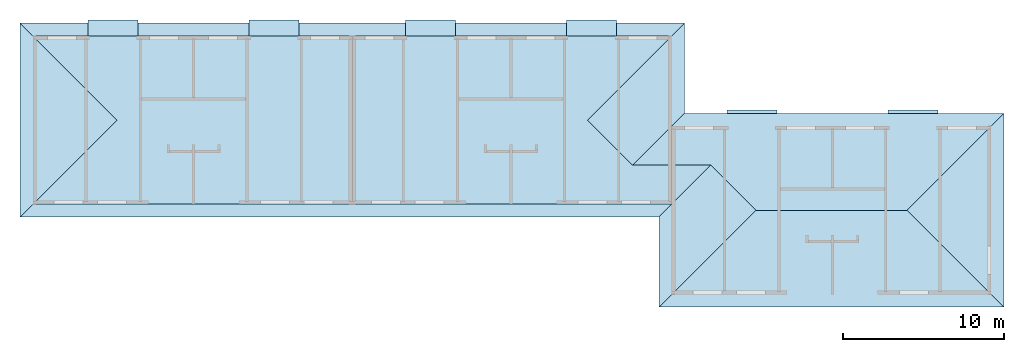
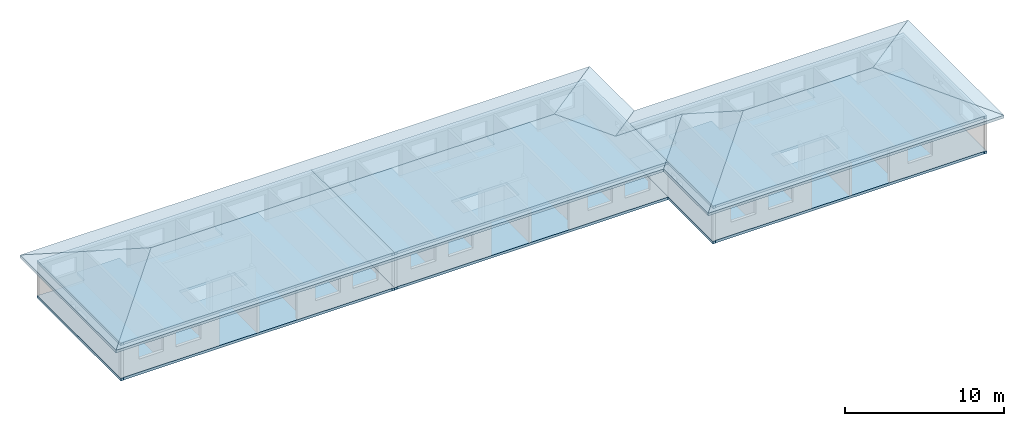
# One storey, part 1 of 9: 14 slabs, 3 openings, 1 element without a shape of its own.
"""IFC2X3 building model written with IfcOpenShell, lengths in millimetres."""

from ifc_helpers import new_model, entity, si_unit, converted_unit, frame, frame_2d, origin, origin_with_axes, place, context, subcontext, project, spatial, polyline, rectangle, outline, extrude, faceted_brep, material, layer, layer_set, layer_usage, element, aggregate, save


model = new_model("IFC2X3")

# Units and contexts
model_context = context("Model", 3, precision=1e-05, world=origin())
plan_context = context("Plan", 3, precision=1e-05, world=origin())
body_context = subcontext(model_context, "Body", "Model", "MODEL_VIEW")
ifc_project = project(units=[si_unit("LENGTHUNIT", "METRE", prefix="MILLI"), converted_unit("PLANEANGLEUNIT", "DEGREE", entity("IfcPlaneAngleMeasure", 0.0174532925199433), si_unit("PLANEANGLEUNIT", "RADIAN"), dimensions=[0, 0, 0, 0, 0, 0, 0]), si_unit("AREAUNIT", "SQUARE_METRE"), si_unit("VOLUMEUNIT", "CUBIC_METRE")], contexts=[model_context, plan_context])

# Building, storey
building_placement = place(None, origin())
building = spatial("IfcBuilding", under=ifc_project, at=building_placement, Name="Bâtiment", CompositionType="ELEMENT")
storey_placement = place(building_placement, frame((0.0, 0.0, 8100.0), z_axis=(0.0, 0.0, 1.0), x_axis=(1.0, 0.0, 0.0)))
storey = spatial("IfcBuildingStorey", under=building, at=storey_placement, Name="r+3", CompositionType="ELEMENT", Elevation=8100.0)

# Slab, opening
ifc_material_1 = material()
ifc_layer_1 = layer(ifc_material_1, 200.0)
ifc_layer_set_1 = layer_set([ifc_layer_1])
ifc_layer_usage_1 = layer_usage(ifc_layer_set_1, "AXIS3", "POSITIVE", 0.0)
slab_1_placement = place(storey_placement, frame((39699.99999999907, -5599.999999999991, -200.0), z_axis=(0.0, 0.0, 1.0), x_axis=(1.0, 0.0, 0.0)))
slab_1 = element("IfcSlab", 1, at=slab_1_placement, inside=storey, material=ifc_layer_usage_1, PredefinedType="FLOOR", context=body_context, shape_type="SweptSolid", body=[
    extrude(outline(polyline([(0.0, 0.0), (180.0, 0.0), (180.0, 20.0775509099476), (6925.000003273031, 20.0775509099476), (13045.00000000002, 20.1627935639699), (19669.99999999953, 20.1627935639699), (19669.99999999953, 1.818989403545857e-12), (19849.99999999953, 1.818989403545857e-12), (19849.99999999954, 10490.07776548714), (19669.99999999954, 10490.07776548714), (19669.99999999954, 10470.07776548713), (16539.99999105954, 10470.07768919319), (16539.59862885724, 11470.07760604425), (13439.59868548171, 11470.07760604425), (13440.00000000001, 10470.07775475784), (6530.000000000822, 10470.07768919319), (6530.000094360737, 11470.07760604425), (3430.000000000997, 11470.07775475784), (3430.000000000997, 10470.07776548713), (180.0, 10470.07776548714), (7.275957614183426e-12, 10470.07776548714), (0.0, 0.0)])), origin_with_axes(), (0.0, 0.0, 1.0), 200.0),
])
opening_1_placement = place(slab_1_placement, frame((7959.999453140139, 4920.077765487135, 0.0), z_axis=(0.0, 0.0, 1.0), x_axis=(1.0, 0.0, 0.0)))
element("IfcOpeningElement", 2, at=opening_1_placement, cuts=slab_1, Name="Trémie dans dalle", ObjectType="Opening", context=body_context, shape_type="SweptSolid", body=[
    extrude(rectangle(XDim=4050.0, YDim=1550.0, at=frame_2d((2025.0, 775.0), x_axis=(1.0, 0.0))), origin_with_axes(), (0.0, 0.0, 1.0), 200.0),
])

ifc_material_2 = material()
ifc_layer_2 = layer(ifc_material_2, 200.0)
ifc_layer_set_2 = layer_set([ifc_layer_2])
ifc_layer_usage_2 = layer_usage(ifc_layer_set_2, "AXIS3", "POSITIVE", 0.0)
slab_2_placement = place(storey_placement, frame((19849.99999999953, 1.818989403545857e-12, -200.0), z_axis=(0.0, 0.0, 1.0), x_axis=(1.0, 0.0, 0.0)))
slab_2 = element("IfcSlab", 3, at=slab_2_placement, inside=storey, material=ifc_layer_usage_2, PredefinedType="FLOOR", context=body_context, shape_type="SweptSolid", body=[
    extrude(outline(polyline([(0.0, 0.0), (180.0, 0.0), (180.0, 20.16279356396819), (6805.000546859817, 20.16279356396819), (6805.000546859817, 20.0775509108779), (12924.99999999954, 20.07755090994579), (19849.99999999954, 20.07755090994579), (19849.99999999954, 10490.07776548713), (19669.99999999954, 10490.07776548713), (19669.99999999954, 10470.07776548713), (16419.99999999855, 10470.07776548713), (16419.99999999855, 11470.07775475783), (13319.99990563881, 11470.07760604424), (13319.99999999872, 10470.07768919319), (6409.999999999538, 10470.07775475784), (6410.401314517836, 11470.07760604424), (3310.401371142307, 11470.07760604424), (3310.000008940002, 10470.07768919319), (180.0000000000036, 10470.07776548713), (180.0000000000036, 10490.07776548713), (3.637978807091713e-12, 10490.07776548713), (0.0, 0.0)])), origin_with_axes(), (0.0, 0.0, 1.0), 200.0),
])
opening_2_placement = place(slab_2_placement, frame((7840.000546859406, 4920.077765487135, 0.0), z_axis=(0.0, 0.0, 1.0), x_axis=(1.0, 0.0, 0.0)))
element("IfcOpeningElement", 4, at=opening_2_placement, cuts=slab_2, Name="Trémie dans dalle", ObjectType="Opening", context=body_context, shape_type="SweptSolid", body=[
    extrude(rectangle(XDim=4050.0, YDim=1550.0, at=frame_2d((2025.0, 775.0), x_axis=(1.0, 0.0))), origin_with_axes(), (0.0, 0.0, 1.0), 200.0),
])

ifc_material_3 = material()
ifc_layer_3 = layer(ifc_material_3, 200.0)
ifc_layer_set_3 = layer_set([ifc_layer_3])
ifc_layer_usage_3 = layer_usage(ifc_layer_set_3, "AXIS3", "POSITIVE", 0.0)
slab_3_placement = place(storey_placement, frame((-5.561300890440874e-12, -3.306546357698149e-14, -200.0), z_axis=(0.0, 0.0, 1.0), x_axis=(1.0, 0.0, 0.0)))
slab_3 = element("IfcSlab", 5, at=slab_3_placement, inside=storey, material=ifc_layer_usage_3, PredefinedType="FLOOR", context=body_context, shape_type="SweptSolid", body=[
    extrude(outline(polyline([(0.0, 3.306546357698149e-14), (180.0, 0.0), (180.0, 20.0775509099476), (6925.000003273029, 20.07755090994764), (13045.00000000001, 20.16279356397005), (19669.99999999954, 20.16279356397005), (19669.99999999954, 1.852054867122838e-12), (19849.99999999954, 1.852054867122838e-12), (19849.99999999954, 10490.07776548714), (19669.99999999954, 10490.07776548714), (19669.99999999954, 10470.07776548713), (16539.99999105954, 10470.07768919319), (16539.59862885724, 11470.07760604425), (13439.59868548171, 11470.07760604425), (13440.0, 10470.07775475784), (6530.00000000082, 10470.07768919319), (6530.000094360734, 11470.07760604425), (3430.000000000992, 11470.07775475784), (3430.000000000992, 10470.07776548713), (180.0000000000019, 10470.07776548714), (180.0000000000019, 10490.07776548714), (1.924546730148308e-12, 10490.07776548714), (0.0, 3.306546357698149e-14)])), origin_with_axes(), (0.0, 0.0, 1.0), 200.0),
])
opening_3_placement = place(slab_3_placement, frame((7959.999453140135, 4920.077765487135, 0.0), z_axis=(0.0, 0.0, 1.0), x_axis=(1.0, 0.0, 0.0)))
element("IfcOpeningElement", 6, at=opening_3_placement, cuts=slab_3, Name="Trémie dans dalle", ObjectType="Opening", context=body_context, shape_type="SweptSolid", body=[
    extrude(rectangle(XDim=4050.0, YDim=1550.0, at=frame_2d((2025.0, 775.0), x_axis=(1.0, 0.0))), origin_with_axes(), (0.0, 0.0, 1.0), 200.0),
])

# Roof, slabs
roof_placement = place(storey_placement, frame((0.0, 0.0, -8100.0), z_axis=(0.0, 0.0, 1.0), x_axis=(1.0, 0.0, 0.0)))
roof = element("IfcRoof", 7, at=roof_placement, inside=storey, ShapeType="NOTDEFINED")
ifc_material_4 = material()
slab_4_placement = place(roof_placement, origin_with_axes())
slab_4 = element("IfcSlab", 8, at=slab_4_placement, material=ifc_material_4, PredefinedType="ROOF", context=body_context, shape_type="Brep", body=[
    faceted_brep([(38899.99999999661, -779.9224490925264, 10799.99999999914), (42125.00010728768, 2445.077658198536, 11928.75003755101), (37274.99989271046, 2445.077658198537, 11928.75003755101), (34474.99989271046, 5245.077658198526, 12908.75003755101), (5225.000107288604, 5245.077658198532, 12908.750037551), (-799.9999999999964, -779.9224490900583, 10800.0), (38900.00000000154, -779.9224490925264, 11011.89620100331), (-799.9999999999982, -779.9224490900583, 11011.89620100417), (5225.000107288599, 5245.077658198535, 13120.64623855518), (34474.99989271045, 5245.077658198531, 13120.64623855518), (37274.99989271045, 2445.077658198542, 12140.64623855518), (42125.00010728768, 2445.07765819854, 12140.64623855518), (42125.00010728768, 2445.07765819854, 12140.64623855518), (37274.99989271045, 2445.077658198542, 12140.64623855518), (37274.99989271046, 2445.077658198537, 11928.75003755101), (42125.00010728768, 2445.077658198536, 11928.75003755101), (37274.99989271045, 2445.077658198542, 12140.64623855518), (34474.99989271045, 5245.077658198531, 13120.64623855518), (34474.99989271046, 5245.077658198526, 12908.75003755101), (37274.99989271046, 2445.077658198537, 11928.75003755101), (34474.99989271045, 5245.077658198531, 13120.64623855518), (5225.000107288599, 5245.077658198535, 13120.64623855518), (5225.000107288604, 5245.077658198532, 12908.750037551), (34474.99989271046, 5245.077658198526, 12908.75003755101), (5225.000107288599, 5245.077658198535, 13120.64623855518), (-799.9999999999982, -779.9224490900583, 11011.89620100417), (-799.9999999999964, -779.9224490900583, 10800.0), (5225.000107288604, 5245.077658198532, 12908.750037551), (-799.9999999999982, -779.9224490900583, 11011.89620100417), (38900.00000000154, -779.9224490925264, 11011.89620100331), (38899.99999999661, -779.9224490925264, 10799.99999999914), (-799.9999999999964, -779.9224490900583, 10800.0), (38900.00000000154, -779.9224490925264, 11011.89620100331), (42125.00010728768, 2445.07765819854, 12140.64623855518), (42125.00010728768, 2445.077658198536, 11928.75003755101), (38899.99999999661, -779.9224490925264, 10799.99999999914)], [[[0, 1, 2, 3, 4, 5]], [[6, 7, 8, 9, 10, 11]], [[12, 13, 14, 15]], [[16, 17, 18, 19]], [[20, 21, 22, 23]], [[24, 25, 26, 27]], [[28, 29, 30, 31]], [[32, 33, 34, 35]]], orient=[[False], [False], [False], [False], [False], [False], [False], [False]]),
])
ifc_material_5 = material()
slab_5_placement = place(roof_placement, origin_with_axes())
slab_5 = element("IfcSlab", 9, at=slab_5_placement, material=ifc_material_5, PredefinedType="ROOF", context=body_context, shape_type="Brep", body=[
    faceted_brep([(38899.998282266, -6379.92416682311, 10799.99939879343), (44925.00010728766, -354.9223418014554, 12908.750037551), (42125.00010728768, 2445.077658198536, 11928.75003755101), (38900.00000000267, -779.9224490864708, 10800.00000000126), (38899.998282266, -6379.924166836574, 11011.8955997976), (38900.00000000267, -779.9224490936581, 11011.89620100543), (42125.00010728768, 2445.07765819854, 12140.64623855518), (44925.00010728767, -354.9223418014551, 13120.64623855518), (44925.00010728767, -354.9223418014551, 13120.64623855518), (42125.00010728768, 2445.07765819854, 12140.64623855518), (42125.00010728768, 2445.077658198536, 11928.75003755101), (44925.00010728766, -354.9223418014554, 12908.750037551), (42125.00010728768, 2445.07765819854, 12140.64623855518), (38900.00000000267, -779.9224490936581, 11011.89620100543), (38900.00000000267, -779.9224490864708, 10800.00000000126), (42125.00010728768, 2445.077658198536, 11928.75003755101), (38900.00000000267, -779.9224490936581, 11011.89620100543), (38899.998282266, -6379.924166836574, 11011.8955997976), (38899.998282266, -6379.92416682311, 10799.99939879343), (38900.00000000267, -779.9224490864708, 10800.00000000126), (38899.998282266, -6379.924166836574, 11011.8955997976), (44925.00010728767, -354.9223418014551, 13120.64623855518), (44925.00010728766, -354.9223418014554, 12908.750037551), (38899.998282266, -6379.92416682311, 10799.99939879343)], [[[0, 1, 2, 3]], [[4, 5, 6, 7]], [[8, 9, 10, 11]], [[12, 13, 14, 15]], [[16, 17, 18, 19]], [[20, 21, 22, 23]]], orient=[[False], [False], [False], [False], [False], [False]]),
])
ifc_material_6 = material()
slab_6_placement = place(roof_placement, origin_with_axes())
slab_6 = element("IfcSlab", 10, at=slab_6_placement, material=ifc_material_6, PredefinedType="ROOF", context=body_context, shape_type="Brep", body=[
    faceted_brep([(40500.00000000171, 5670.077765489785, 10799.99999999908), (37274.99989271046, 2445.077658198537, 11928.75003755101), (42125.00010728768, 2445.077658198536, 11928.75003755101), (44925.00010728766, -354.9223418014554, 12908.750037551), (54324.99989271, -354.9223418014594, 12908.750037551), (60350.00000000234, 5670.077765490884, 10799.99999999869), (40499.99999999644, 5670.077765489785, 11011.89620100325), (60349.99999999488, 5670.077765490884, 11011.89620100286), (54324.99989271, -354.9223418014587, 13120.64623855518), (44925.00010728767, -354.9223418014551, 13120.64623855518), (42125.00010728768, 2445.07765819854, 12140.64623855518), (37274.99989271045, 2445.077658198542, 12140.64623855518), (37274.99989271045, 2445.077658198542, 12140.64623855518), (42125.00010728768, 2445.07765819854, 12140.64623855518), (42125.00010728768, 2445.077658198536, 11928.75003755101), (37274.99989271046, 2445.077658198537, 11928.75003755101), (42125.00010728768, 2445.07765819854, 12140.64623855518), (44925.00010728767, -354.9223418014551, 13120.64623855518), (44925.00010728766, -354.9223418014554, 12908.750037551), (42125.00010728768, 2445.077658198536, 11928.75003755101), (44925.00010728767, -354.9223418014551, 13120.64623855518), (54324.99989271, -354.9223418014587, 13120.64623855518), (54324.99989271, -354.9223418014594, 12908.750037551), (44925.00010728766, -354.9223418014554, 12908.750037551), (54324.99989271, -354.9223418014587, 13120.64623855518), (60349.99999999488, 5670.077765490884, 11011.89620100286), (60350.00000000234, 5670.077765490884, 10799.99999999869), (54324.99989271, -354.9223418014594, 12908.750037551), (60349.99999999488, 5670.077765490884, 11011.89620100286), (40499.99999999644, 5670.077765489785, 11011.89620100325), (40500.00000000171, 5670.077765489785, 10799.99999999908), (60350.00000000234, 5670.077765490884, 10799.99999999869), (40499.99999999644, 5670.077765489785, 11011.89620100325), (37274.99989271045, 2445.077658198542, 12140.64623855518), (37274.99989271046, 2445.077658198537, 11928.75003755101), (40500.00000000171, 5670.077765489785, 10799.99999999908)], [[[0, 1, 2, 3, 4, 5]], [[6, 7, 8, 9, 10, 11]], [[12, 13, 14, 15]], [[16, 17, 18, 19]], [[20, 21, 22, 23]], [[24, 25, 26, 27]], [[28, 29, 30, 31]], [[32, 33, 34, 35]]], orient=[[False], [False], [False], [False], [False], [False], [False], [False]]),
])
ifc_material_7 = material()
slab_7_placement = place(roof_placement, origin_with_axes())
slab_7 = element("IfcSlab", 11, at=slab_7_placement, material=ifc_material_7, PredefinedType="ROOF", context=body_context, shape_type="Brep", body=[
    faceted_brep([(40499.99999999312, 11270.07776548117, 10800.00000000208), (34474.99989271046, 5245.077658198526, 12908.75003755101), (37274.99989271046, 2445.077658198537, 11928.75003755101), (40499.9999999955, 5670.07776548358, 10800.00000000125), (40499.99999999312, 11270.07776549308, 11011.89620100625), (40499.9999999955, 5670.077765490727, 11011.89620100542), (37274.99989271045, 2445.077658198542, 12140.64623855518), (34474.99989271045, 5245.077658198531, 13120.64623855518), (34474.99989271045, 5245.077658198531, 13120.64623855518), (37274.99989271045, 2445.077658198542, 12140.64623855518), (37274.99989271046, 2445.077658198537, 11928.75003755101), (34474.99989271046, 5245.077658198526, 12908.75003755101), (37274.99989271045, 2445.077658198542, 12140.64623855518), (40499.9999999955, 5670.077765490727, 11011.89620100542), (40499.9999999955, 5670.07776548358, 10800.00000000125), (37274.99989271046, 2445.077658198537, 11928.75003755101), (40499.9999999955, 5670.077765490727, 11011.89620100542), (40499.99999999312, 11270.07776549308, 11011.89620100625), (40499.99999999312, 11270.07776548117, 10800.00000000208), (40499.9999999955, 5670.07776548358, 10800.00000000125), (40499.99999999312, 11270.07776549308, 11011.89620100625), (34474.99989271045, 5245.077658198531, 13120.64623855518), (34474.99989271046, 5245.077658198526, 12908.75003755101), (40499.99999999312, 11270.07776548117, 10800.00000000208)], [[[0, 1, 2, 3]], [[4, 5, 6, 7]], [[8, 9, 10, 11]], [[12, 13, 14, 15]], [[16, 17, 18, 19]], [[20, 21, 22, 23]]], orient=[[False], [False], [False], [False], [False], [False]]),
])
ifc_material_8 = material()
slab_8_placement = place(roof_placement, origin_with_axes())
slab_8 = element("IfcSlab", 12, at=slab_8_placement, material=ifc_material_8, PredefinedType="ROOF", context=body_context, shape_type="Brep", body=[
    faceted_brep([(60349.91132226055, -6379.833771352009, 10800.03103720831), (54324.99989271, -354.9223418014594, 12908.750037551), (44925.00010728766, -354.9223418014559, 12908.750037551), (38899.99828225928, -6379.924166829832, 10799.99939879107), (60349.91132226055, -6379.833771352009, 11011.92723821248), (38899.99828225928, -6379.924166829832, 11011.89559979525), (44925.00010728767, -354.9223418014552, 13120.64623855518), (54324.99989271, -354.9223418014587, 13120.64623855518), (54324.99989271, -354.9223418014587, 13120.64623855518), (44925.00010728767, -354.9223418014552, 13120.64623855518), (44925.00010728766, -354.9223418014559, 12908.750037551), (54324.99989271, -354.9223418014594, 12908.750037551), (44925.00010728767, -354.9223418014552, 13120.64623855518), (38899.99828225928, -6379.924166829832, 11011.89559979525), (38899.99828225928, -6379.924166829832, 10799.99939879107), (44925.00010728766, -354.9223418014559, 12908.750037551), (38899.99828225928, -6379.924166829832, 11011.89559979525), (60349.91132226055, -6379.833771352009, 11011.92723821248), (60349.91132226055, -6379.833771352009, 10800.03103720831), (38899.99828225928, -6379.924166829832, 10799.99939879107), (60349.91132226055, -6379.833771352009, 11011.92723821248), (54324.99989271, -354.9223418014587, 13120.64623855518), (54324.99989271, -354.9223418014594, 12908.750037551), (60349.91132226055, -6379.833771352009, 10800.03103720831)], [[[0, 1, 2, 3]], [[4, 5, 6, 7]], [[8, 9, 10, 11]], [[12, 13, 14, 15]], [[16, 17, 18, 19]], [[20, 21, 22, 23]]], orient=[[False], [False], [False], [False], [False], [False]]),
])
ifc_material_9 = material()
slab_9_placement = place(roof_placement, origin_with_axes())
slab_9 = element("IfcSlab", 13, at=slab_9_placement, material=ifc_material_9, PredefinedType="ROOF", context=body_context, shape_type="Brep", body=[
    faceted_brep([(60349.99999999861, 5670.077765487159, 10799.99999999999), (54324.99989271, -354.9223418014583, 12908.750037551), (60349.91132226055, -6379.833771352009, 10800.03103720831), (60349.99999999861, 5670.077765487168, 11011.89620100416), (60349.91132226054, -6379.833771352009, 11011.92723821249), (54324.99989271, -354.9223418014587, 13120.64623855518), (54324.99989271, -354.9223418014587, 13120.64623855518), (60349.91132226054, -6379.833771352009, 11011.92723821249), (60349.91132226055, -6379.833771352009, 10800.03103720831), (54324.99989271, -354.9223418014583, 12908.750037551), (60349.91132226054, -6379.833771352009, 11011.92723821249), (60349.99999999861, 5670.077765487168, 11011.89620100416), (60349.99999999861, 5670.077765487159, 10799.99999999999), (60349.91132226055, -6379.833771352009, 10800.03103720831), (60349.99999999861, 5670.077765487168, 11011.89620100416), (54324.99989271, -354.9223418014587, 13120.64623855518), (54324.99989271, -354.9223418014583, 12908.750037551), (60349.99999999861, 5670.077765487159, 10799.99999999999)], [[[0, 1, 2]], [[3, 4, 5]], [[6, 7, 8, 9]], [[10, 11, 12, 13]], [[14, 15, 16, 17]]], orient=[[False], [False], [False], [False], [False]]),
])
ifc_material_10 = material()
slab_10_placement = place(roof_placement, origin_with_axes())
slab_10 = element("IfcSlab", 14, at=slab_10_placement, material=ifc_material_10, PredefinedType="ROOF", context=body_context, shape_type="Brep", body=[
    faceted_brep([(-800.0, 11270.07776548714, 10800.0), (5225.000107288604, 5245.077658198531, 12908.750037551), (34474.99989271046, 5245.077658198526, 12908.75003755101), (40499.99999999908, 11270.07776548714, 10800.0), (-799.9999999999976, 11270.07776548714, 11011.89620100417), (40499.99999999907, 11270.07776548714, 11011.89620100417), (34474.99989271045, 5245.07765819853, 13120.64623855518), (5225.000107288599, 5245.077658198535, 13120.64623855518), (5225.000107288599, 5245.077658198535, 13120.64623855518), (34474.99989271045, 5245.07765819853, 13120.64623855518), (34474.99989271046, 5245.077658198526, 12908.75003755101), (5225.000107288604, 5245.077658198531, 12908.750037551), (34474.99989271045, 5245.07765819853, 13120.64623855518), (40499.99999999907, 11270.07776548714, 11011.89620100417), (40499.99999999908, 11270.07776548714, 10800.0), (34474.99989271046, 5245.077658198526, 12908.75003755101), (40499.99999999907, 11270.07776548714, 11011.89620100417), (-799.9999999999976, 11270.07776548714, 11011.89620100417), (-800.0, 11270.07776548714, 10800.0), (40499.99999999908, 11270.07776548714, 10800.0), (-799.9999999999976, 11270.07776548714, 11011.89620100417), (5225.000107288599, 5245.077658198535, 13120.64623855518), (5225.000107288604, 5245.077658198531, 12908.750037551), (-800.0, 11270.07776548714, 10800.0)], [[[0, 1, 2, 3]], [[4, 5, 6, 7]], [[8, 9, 10, 11]], [[12, 13, 14, 15]], [[16, 17, 18, 19]], [[20, 21, 22, 23]]], orient=[[False], [False], [False], [False], [False], [False]]),
])
ifc_material_11 = material()
slab_11_placement = place(roof_placement, origin_with_axes())
slab_11 = element("IfcSlab", 15, at=slab_11_placement, material=ifc_material_11, PredefinedType="ROOF", context=body_context, shape_type="Brep", body=[
    faceted_brep([(-800.0, -779.9224490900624, 10800.0), (5225.000107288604, 5245.077658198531, 12908.750037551), (-800.0, 11270.07776548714, 10800.0), (-800.0000000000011, -779.9224490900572, 11011.89620100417), (-799.9999999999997, 11270.07776548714, 11011.89620100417), (5225.000107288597, 5245.077658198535, 13120.64623855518), (5225.000107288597, 5245.077658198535, 13120.64623855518), (-799.9999999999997, 11270.07776548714, 11011.89620100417), (-800.0, 11270.07776548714, 10800.0), (5225.000107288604, 5245.077658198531, 12908.750037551), (-799.9999999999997, 11270.07776548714, 11011.89620100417), (-800.0000000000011, -779.9224490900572, 11011.89620100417), (-800.0, -779.9224490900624, 10800.0), (-800.0, 11270.07776548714, 10800.0), (-800.0000000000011, -779.9224490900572, 11011.89620100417), (5225.000107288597, 5245.077658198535, 13120.64623855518), (5225.000107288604, 5245.077658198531, 12908.750037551), (-800.0, -779.9224490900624, 10800.0)], [[[0, 1, 2]], [[3, 4, 5]], [[6, 7, 8, 9]], [[10, 11, 12, 13]], [[14, 15, 16, 17]]], orient=[[False], [False], [False], [False], [False]]),
])
aggregate(roof, [slab_4, slab_5, slab_6, slab_7, slab_8, slab_9, slab_10, slab_11])

# Slabs
ifc_material_12 = material()
ifc_layer_4 = layer(ifc_material_12, 200.0)
ifc_layer_set_4 = layer_set([ifc_layer_4])
ifc_layer_usage_4 = layer_usage(ifc_layer_set_4, "AXIS3", "POSITIVE", 0.0)
slab_12_placement = place(storey_placement, frame((19849.99999999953, 1.818989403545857e-12, 2500.0), z_axis=(0.0, 0.0, 1.0), x_axis=(1.0, 0.0, 0.0)))
element("IfcSlab", 16, at=slab_12_placement, inside=storey, material=ifc_layer_usage_4, PredefinedType="FLOOR", context=body_context, shape_type="SweptSolid", body=[
    extrude(outline(polyline([(0.0, 0.0), (180.0, 0.0), (180.0, 20.16279356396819), (6805.000546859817, 20.16279356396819), (6805.000546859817, 20.0775509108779), (12924.99999999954, 20.07755090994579), (19849.99999999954, 20.07755090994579), (19849.99999999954, 10490.07776548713), (19669.99999999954, 10490.07776548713), (19669.99999999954, 10470.07776548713), (16419.99999999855, 10470.07776548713), (13319.99999999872, 10470.07768919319), (6409.999999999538, 10470.07775475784), (6410.401314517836, 10470.07761677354), (3310.401371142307, 10470.07761677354), (3310.000008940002, 10470.07768919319), (180.0000000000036, 10470.07776548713), (180.0000000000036, 10490.07776548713), (3.637978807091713e-12, 10490.07776548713), (0.0, 0.0)])), origin_with_axes(), (0.0, 0.0, 1.0), 200.0),
])
ifc_material_13 = material()
ifc_layer_5 = layer(ifc_material_13, 200.0)
ifc_layer_set_5 = layer_set([ifc_layer_5])
ifc_layer_usage_5 = layer_usage(ifc_layer_set_5, "AXIS3", "POSITIVE", 0.0)
slab_13_placement = place(storey_placement, frame((39699.99999999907, -5599.999999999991, 2500.0), z_axis=(0.0, 0.0, 1.0), x_axis=(1.0, 0.0, 0.0)))
element("IfcSlab", 17, at=slab_13_placement, inside=storey, material=ifc_layer_usage_5, PredefinedType="FLOOR", context=body_context, shape_type="SweptSolid", body=[
    extrude(outline(polyline([(0.0, 0.0), (180.0, 0.0), (180.0, 20.0775509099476), (6925.000003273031, 20.0775509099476), (13045.00000000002, 20.1627935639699), (19669.99999999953, 20.1627935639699), (19669.99999999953, 1.818989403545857e-12), (19849.99999999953, 1.818989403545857e-12), (19849.99999999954, 10490.07776548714), (19669.99999999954, 10490.07776548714), (19669.99999999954, 10470.07776548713), (16539.99999105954, 10470.07768919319), (13440.00000000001, 10470.07775475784), (6530.335164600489, 10470.07768919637), (3430.401362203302, 10470.07783790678), (3430.000000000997, 10470.07776548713), (180.0, 10470.07776548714), (7.275957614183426e-12, 10470.07776548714), (0.0, 0.0)])), origin_with_axes(), (0.0, 0.0, 1.0), 200.0),
])
ifc_material_14 = material()
ifc_layer_6 = layer(ifc_material_14, 200.0)
ifc_layer_set_6 = layer_set([ifc_layer_6])
ifc_layer_usage_6 = layer_usage(ifc_layer_set_6, "AXIS3", "POSITIVE", 0.0)
slab_14_placement = place(storey_placement, frame((-5.561300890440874e-12, -3.306546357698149e-14, 2500.0), z_axis=(0.0, 0.0, 1.0), x_axis=(1.0, 0.0, 0.0)))
element("IfcSlab", 18, at=slab_14_placement, inside=storey, material=ifc_layer_usage_6, PredefinedType="FLOOR", context=body_context, shape_type="SweptSolid", body=[
    extrude(outline(polyline([(0.0, 3.306546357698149e-14), (180.0, 0.0), (180.0, 20.0775509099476), (6925.000003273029, 20.07755090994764), (13045.00000000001, 20.16279356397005), (19669.99999999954, 20.16279356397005), (19669.99999999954, 1.852054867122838e-12), (19849.99999999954, 1.852054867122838e-12), (19849.99999999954, 10490.07776548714), (19669.99999999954, 10490.07776548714), (19669.99999999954, 10470.07776548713), (16539.99999105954, 10470.07768919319), (16539.59862885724, 10470.07761677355), (13439.59868548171, 10470.07761677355), (13440.0, 10470.07775475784), (6530.00000000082, 10470.07768919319), (3430.000000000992, 10470.07776548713), (180.0000000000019, 10470.07776548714), (180.0000000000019, 10490.07776548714), (1.924546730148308e-12, 10490.07776548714), (0.0, 3.306546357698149e-14)])), origin_with_axes(), (0.0, 0.0, 1.0), 200.0),
])

save(model, "model.ifc")
